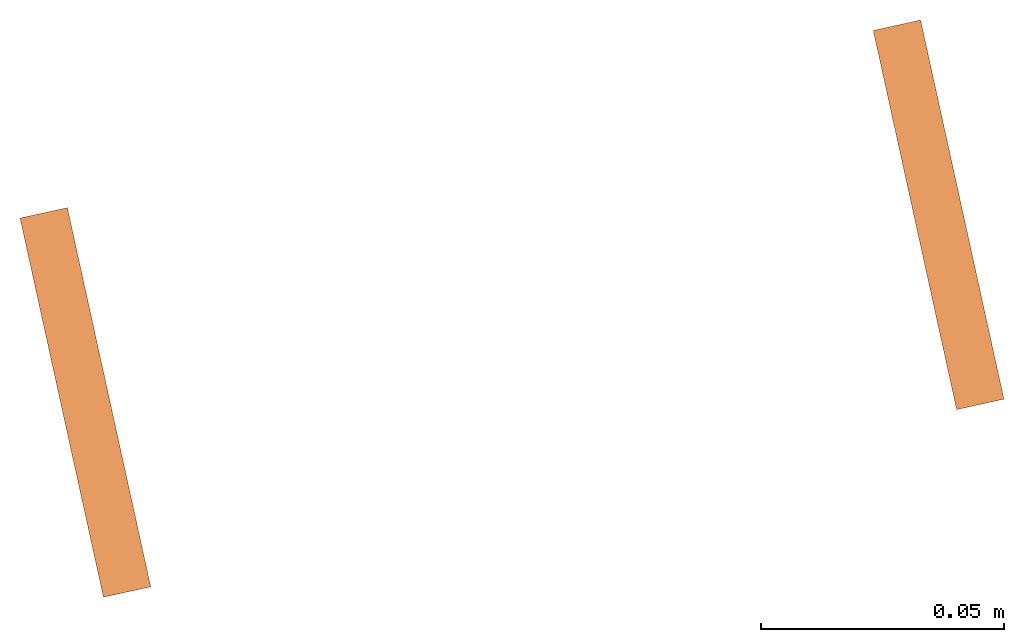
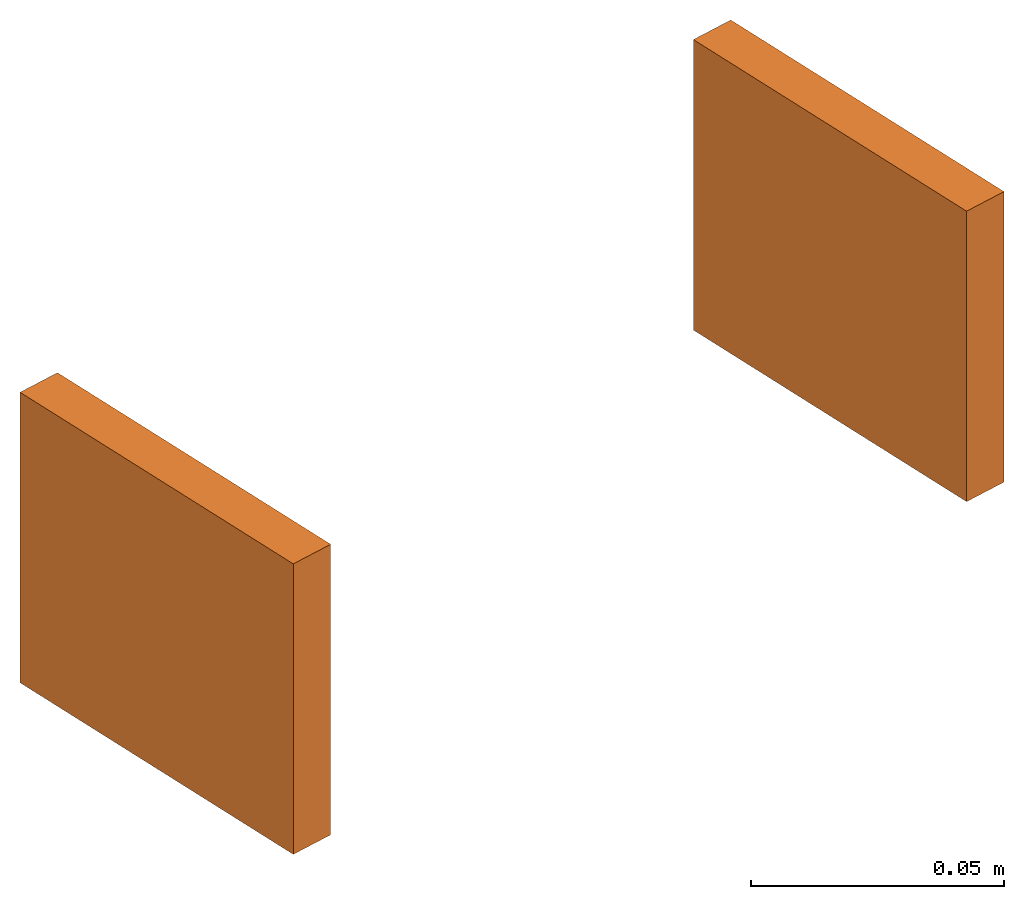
# One storey: 2 proxies.
"""IFC2X3 building model written with IfcOpenShell, lengths in millimetres."""

import ifcopenshell
import ifcopenshell.guid

model = None  # the IFC model being written
_history = None  # IfcOwnerHistory: only IFC2X3 demands one
_inside = {}  # id of a spatial element -> (the spatial element, [elements in it])
_under = {}  # id of a project, library or spatial element -> (it, [spatial elements below it])
_declared = {}  # id of a project -> (the project, [libraries it declares])
_typed = {}  # id of a type object -> (the type object, [elements of that type])
_made_of = {}  # id of a material, layer set ... -> (it, [elements and type objects made of it])


def new_model(schema):
    """Start an empty IFC model of exactly this schema.

    Asked for "IFC4X3", IfcOpenShell would pick the latest addendum, in which some entities
    have other attributes; the version numbers below select the first issue.
    IFC2X3 requires an IfcOwnerHistory on every rooted entity: one is made here for all.
    """
    global model, _history
    if schema == "IFC4X3":
        model = ifcopenshell.file(schema_version=(4, 3, 0, 0))
    else:
        model = ifcopenshell.file(schema=schema)
    _inside.clear()
    _under.clear()
    _declared.clear()
    _typed.clear()
    _made_of.clear()
    _history = None
    if model.schema == "IFC2X3":
        org = make("IfcOrganization", Name="unknown")
        user = make(
            "IfcPersonAndOrganization",
            ThePerson=make("IfcPerson", FamilyName="unknown"),
            TheOrganization=org,
        )
        app = make(
            "IfcApplication",
            ApplicationDeveloper=org,
            Version="unknown",
            ApplicationFullName="unknown",
            ApplicationIdentifier="unknown",
        )
        _history = make(
            "IfcOwnerHistory",
            OwningUser=user,
            OwningApplication=app,
            ChangeAction="ADDED",
            CreationDate=0,
        )
    return model


def make(cls, **values):
    """One entity of the class cls with the attributes given. An attribute that is None is left unset."""
    return model.create_entity(
        cls, **{name: value for name, value in values.items() if value is not None}
    )


def entity(cls, *values):
    """Any entity or typed value of the class cls, its attributes in the order of the schema. None: left unset."""
    e = model.create_entity(cls)
    for i, value in enumerate(values):
        if value is not None:
            e[i] = value
    return e


def rooted(cls, **values):
    """An entity with a GlobalId (a new one), such as an element, a storey or a relation."""
    return make(cls, GlobalId=ifcopenshell.guid.new(), OwnerHistory=_history, **values)


def si_unit(unit_type, name, prefix=None):
    """IfcSIUnit, for example si_unit("LENGTHUNIT", "METRE", prefix="MILLI")."""
    return make("IfcSIUnit", UnitType=unit_type, Prefix=prefix, Name=name)


def converted_unit(unit_type, name, factor, base, dimensions=None, offset=None):
    """IfcConversionBasedUnit, such as the inch: factor (a typed value) times the base unit."""
    return make(
        "IfcConversionBasedUnit"
        if offset is None
        else "IfcConversionBasedUnitWithOffset",
        ConversionOffset=offset,
        Dimensions=None
        if dimensions is None
        else entity("IfcDimensionalExponents", *dimensions),
        UnitType=unit_type,
        Name=name,
        ConversionFactor=make(
            "IfcMeasureWithUnit", ValueComponent=factor, UnitComponent=base
        ),
    )


def derived_unit(unit_type, elements):
    """IfcDerivedUnit: a product of units, each with its exponent."""
    return make(
        "IfcDerivedUnit",
        Elements=[
            make("IfcDerivedUnitElement", Unit=unit, Exponent=power)
            for unit, power in elements
        ],
        UnitType=unit_type,
    )


def assignment(units):
    """IfcUnitAssignment: the units of a project."""
    return None if units is None else make("IfcUnitAssignment", Units=units)


def point(xyz):
    """IfcCartesianPoint."""
    return None if xyz is None else make("IfcCartesianPoint", Coordinates=xyz)


def direction(xyz):
    """IfcDirection."""
    return None if xyz is None else make("IfcDirection", DirectionRatios=xyz)


def frame(location, z_axis=None, x_axis=None):
    """IfcAxis2Placement3D, a coordinate frame: its origin and axes. An axis left out is left unset."""
    return make(
        "IfcAxis2Placement3D",
        Location=point(location),
        Axis=direction(z_axis),
        RefDirection=direction(x_axis),
    )


def frame_2d(location, x_axis=None):
    """IfcAxis2Placement2D, a coordinate frame in the plane: its origin and x axis."""
    return make(
        "IfcAxis2Placement2D", Location=point(location), RefDirection=direction(x_axis)
    )


def origin():
    """The frame at (0, 0, 0) with its axes left unset."""
    return frame((0.0, 0.0, 0.0))


def origin_with_axes():
    """The frame at (0, 0, 0) with the z axis (0, 0, 1) and the x axis (1, 0, 0) written out."""
    return frame((0.0, 0.0, 0.0), z_axis=(0.0, 0.0, 1.0), x_axis=(1.0, 0.0, 0.0))


def origin_2d_with_axis():
    """The frame at (0, 0) in the plane with the x axis (1, 0) written out."""
    return frame_2d((0.0, 0.0), x_axis=(1.0, 0.0))


def place(relative_to, where):
    """IfcLocalPlacement: puts the frame where relative to a parent placement (None: the world)."""
    return make(
        "IfcLocalPlacement", PlacementRelTo=relative_to, RelativePlacement=where
    )


def context(
    kind, dimensions, precision=None, world=None, true_north=None, identifier=None
):
    """IfcGeometricRepresentationContext, for example the 3D "Model" context."""
    return make(
        "IfcGeometricRepresentationContext",
        ContextIdentifier=identifier,
        ContextType=kind,
        CoordinateSpaceDimension=dimensions,
        Precision=precision,
        WorldCoordinateSystem=world,
        TrueNorth=true_north,
    )


def subcontext(parent, identifier, kind, view, scale=None):
    """IfcGeometricRepresentationSubContext, for example "Body" below "Model"."""
    return make(
        "IfcGeometricRepresentationSubContext",
        ContextIdentifier=identifier,
        ContextType=kind,
        ParentContext=parent,
        TargetScale=scale,
        TargetView=view,
    )


def project(units=None, contexts=None):
    """IfcProject with its units and contexts."""
    return rooted(
        "IfcProject",
        Name="project",
        RepresentationContexts=contexts,
        UnitsInContext=assignment(units),
    )


def spatial(cls, under=None, at=None, **own):
    """A site, building, storey or space (cls), placed at a placement, below another one or the project."""
    s = rooted(cls, ObjectPlacement=at, **own)
    if under is not None:
        _under.setdefault(under.id(), (under, []))[1].append(s)
    return s


def profile(cls, at=None, kind="AREA", **sizes):
    """A parametric profile (cls). Its sizes go by their IFC names, for example OverallWidth=200.0."""
    return make(cls, ProfileType=kind, Position=at, **sizes)


def rectangle(**sizes):
    """IfcRectangleProfileDef."""
    return profile("IfcRectangleProfileDef", **sizes)


def extrude(swept, where, along, depth):
    """IfcExtrudedAreaSolid: the profile swept, set in the frame where, extruded along a direction by depth."""
    return make(
        "IfcExtrudedAreaSolid",
        SweptArea=swept,
        Position=where,
        ExtrudedDirection=direction(along),
        Depth=depth,
    )


def shape(context_of_items, identifier, shape_type, items):
    """IfcShapeRepresentation: the items that make up one representation, for example the "Body"."""
    return make(
        "IfcShapeRepresentation",
        ContextOfItems=context_of_items,
        RepresentationIdentifier=identifier,
        RepresentationType=shape_type,
        Items=items,
    )


def source(mapping_origin, context_of_items, identifier, shape_type, items):
    """IfcRepresentationMap: a shape defined once, which mapped items show again and again."""
    return make(
        "IfcRepresentationMap",
        MappingOrigin=mapping_origin,
        MappedRepresentation=shape(context_of_items, identifier, shape_type, items),
    )


def transform(
    local_origin,
    x_axis=None,
    y_axis=None,
    z_axis=None,
    scale=None,
    scale2=None,
    scale3=None,
    uniform=True,
):
    """IfcCartesianTransformationOperator3D, or its non-uniform kind. x_axis, y_axis, z_axis: its Axis1, 2, 3."""
    if uniform:
        return make(
            "IfcCartesianTransformationOperator3D",
            Axis1=direction(x_axis),
            Axis2=direction(y_axis),
            LocalOrigin=point(local_origin),
            Scale=scale,
            Axis3=direction(z_axis),
        )
    return make(
        "IfcCartesianTransformationOperator3DnonUniform",
        Axis1=direction(x_axis),
        Axis2=direction(y_axis),
        LocalOrigin=point(local_origin),
        Scale=scale,
        Axis3=direction(z_axis),
        Scale2=scale2,
        Scale3=scale3,
    )


def mapped(mapping_source, mapping_target):
    """IfcMappedItem: shows the shape of a source again, moved by a transform."""
    return make(
        "IfcMappedItem", MappingSource=mapping_source, MappingTarget=mapping_target
    )


def material(Name=None, Category=None):
    """IfcMaterial."""
    return make("IfcMaterial", Name=Name, Category=Category)


def made_of(thing, what):
    """Note that an element or type object is made of a material, layer set ...; save() writes the relation."""
    if what is not None:
        _made_of.setdefault(what.id(), (what, []))[1].append(thing)
    return thing


def type_object(cls, material=None, **own):
    """A type object (cls), such as IfcWallType, which elements share."""
    return made_of(rooted(cls, **own), material)


def element(
    cls,
    number,
    at=None,
    inside=None,
    cuts=None,
    type_object=None,
    material=None,
    context=None,
    identifier="Body",
    shape_type=None,
    held_by="IfcProductDefinitionShape",
    body=None,
    shapes=None,
    **own,
):
    """One element of the class cls, such as IfcWall. Its Tag is "e" and its number.

    at: its placement. inside: the storey or other place that contains it. cuts: it is an
    opening in that element (IfcRelVoidsElement). A single representation is given by context,
    identifier, shape_type and body (its items); several are given by shapes. held_by: the class
    of the entity that holds the representations. save() writes the other relations.
    """
    e = rooted(cls, Tag="e%d" % number, ObjectPlacement=at, **own)
    if body is not None:
        shapes = [shape(context, identifier, shape_type, body)]
    if shapes is not None:
        e.Representation = make(held_by, Representations=shapes)
    if inside is not None:
        _inside.setdefault(inside.id(), (inside, []))[1].append(e)
    if cuts is not None:
        rooted(
            "IfcRelVoidsElement", RelatingBuildingElement=cuts, RelatedOpeningElement=e
        )
    if type_object is not None:
        _typed.setdefault(type_object.id(), (type_object, []))[1].append(e)
    return made_of(e, material)


def aggregate(whole, parts):
    """IfcRelAggregates: a whole, such as a stair, and the parts it consists of."""
    return rooted("IfcRelAggregates", RelatingObject=whole, RelatedObjects=parts)


def save(model, path):
    """Write the relations noted so far, then the file.

    IfcRelAggregates (storeys below a building ...), IfcRelContainedInSpatialStructure (elements
    in a storey), IfcRelDefinesByType, IfcRelAssociatesMaterial and IfcRelDeclares: one each for
    every whole, place, type object, material and project.
    """
    for whole, parts in _under.values():
        aggregate(whole, parts)
    for where, things in _inside.values():
        rooted(
            "IfcRelContainedInSpatialStructure",
            RelatedElements=things,
            RelatingStructure=where,
        )
    for kind, things in _typed.values():
        rooted("IfcRelDefinesByType", RelatedObjects=things, RelatingType=kind)
    for what, things in _made_of.values():
        rooted("IfcRelAssociatesMaterial", RelatedObjects=things, RelatingMaterial=what)
    for by, libraries in _declared.values():
        rooted("IfcRelDeclares", RelatingContext=by, RelatedDefinitions=libraries)
    model.write(path)


model = new_model("IFC2X3")

# Units and contexts
plan_context = context("Plan", 3, precision=1e-05, world=origin_with_axes())
model_context = context("Model", 3, precision=0.01, world=origin(), true_north=direction((6.12323399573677e-17, 1.0)))
body_context = subcontext(model_context, "Body", "Model", "MODEL_VIEW")
ifc_project = project(units=[converted_unit("PLANEANGLEUNIT", "DEGREE", entity("IfcPositiveLengthMeasure", 0.0174532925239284), si_unit("PLANEANGLEUNIT", "RADIAN"), dimensions=[0, 0, 0, 0, 0, 0, 0]), si_unit("AREAUNIT", "SQUARE_METRE"), si_unit("LENGTHUNIT", "METRE", prefix="MILLI"), si_unit("MASSUNIT", "GRAM", prefix="KILO"), si_unit("POWERUNIT", "WATT"), si_unit("PRESSUREUNIT", "PASCAL", prefix="KILO"), si_unit("FORCEUNIT", "NEWTON", prefix="KILO"), si_unit("ELECTRICVOLTAGEUNIT", "VOLT"), si_unit("ELECTRICCURRENTUNIT", "AMPERE"), si_unit("THERMODYNAMICTEMPERATUREUNIT", "DEGREE_CELSIUS"), si_unit("TIMEUNIT", "SECOND"), si_unit("VOLUMEUNIT", "CUBIC_METRE"), derived_unit("LINEARVELOCITYUNIT", [(si_unit("LENGTHUNIT", "METRE"), 1), (si_unit("TIMEUNIT", "SECOND"), -1)]), derived_unit("VOLUMETRICFLOWRATEUNIT", [(si_unit("VOLUMEUNIT", "CUBIC_METRE"), 1), (si_unit("TIMEUNIT", "SECOND"), -1)]), derived_unit("THERMALTRANSMITTANCEUNIT", [(si_unit("POWERUNIT", "WATT"), 1), (si_unit("THERMODYNAMICTEMPERATUREUNIT", "KELVIN"), -1), (si_unit("AREAUNIT", "SQUARE_METRE"), -1)]), derived_unit("SOUNDPRESSUREUNIT", [(si_unit("PRESSUREUNIT", "PASCAL"), 1)])], contexts=[model_context, plan_context])

# Site, building, storey
site_placement = place(None, frame((0.0, 0.0, 0.0), z_axis=(0.0, 0.0, 1.0), x_axis=(0.214788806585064, -0.976660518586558, 0.0)))
site = spatial("IfcSite", under=ifc_project, at=site_placement, Name="Default", CompositionType="ELEMENT")
building_placement = place(site_placement, origin_with_axes())
building = spatial("IfcBuilding", under=site, at=building_placement, CompositionType="ELEMENT")
storey_placement = place(building_placement, frame((0.0, 0.0, 2100.0), z_axis=(0.0, 0.0, 1.0), x_axis=(1.0, 0.0, 0.0)))
storey = spatial("IfcBuildingStorey", under=building, at=storey_placement, Name="PLAN 0. ETG", CompositionType="ELEMENT", Elevation=2100.0)

# Proxies
ifc_material = material(Name="NO_Metall - Stål - S355")
building_element_proxy_type = type_object("IfcBuildingElementProxyType", Name="Stålplate for innfesting av sekundærstål:70x10x80", PredefinedType="NOTDEFINED", material=ifc_material)
shared_shape = source(origin(), body_context, "Body", "SweptSolid", [
    extrude(rectangle(XDim=9.99999999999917, YDim=80.0000000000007, at=origin_2d_with_axis()), frame((0.0, 0.0, 0.0), z_axis=(0.0, 0.0, 1.0), x_axis=(-1.0, 0.0, 0.0)), (0.0, 0.0, 1.0), 70.0),
])
for number, where, z_axis, x_axis, name in (
    (1, (-186318.261439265, 374617.738386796, 6040.0), (0.0, 0.0, 1.0), (0.0, 1.0, 0.0), "Stålplate for innfesting av sekundærstål:70x10x80"),
    (2, (-186318.261439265, 374797.738386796, 6040.0), (0.0, 0.0, 1.0), (0.0, 1.0, 0.0), "Stålplate for innfesting av sekundærstål:70x10x80"),
):
    element("IfcBuildingElementProxy", number, at=place(storey_placement, frame(where, z_axis=z_axis, x_axis=x_axis)), inside=storey, type_object=building_element_proxy_type, material=ifc_material, Name=name, ObjectType="Stålplate for innfesting av sekundærstål:70x10x80", context=body_context, shape_type="MappedRepresentation", body=[
        mapped(shared_shape, transform((0.0, 0.0, 0.0), scale=1.0)),
    ])

save(model, "model.ifc")
